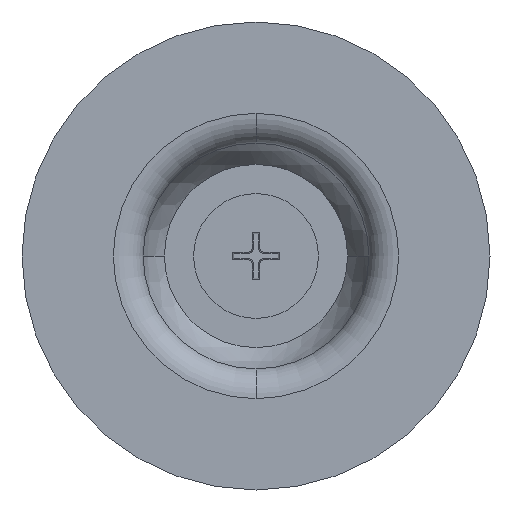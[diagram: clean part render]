
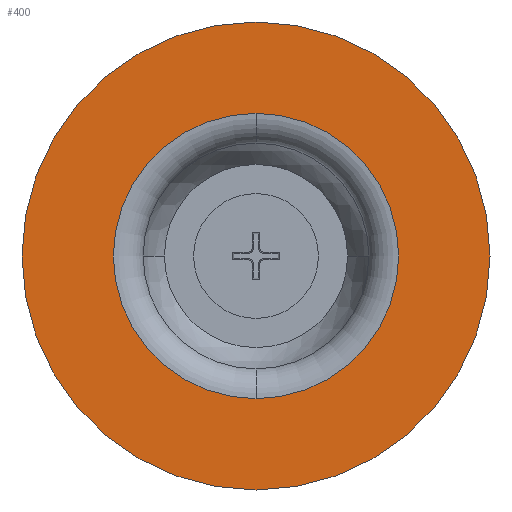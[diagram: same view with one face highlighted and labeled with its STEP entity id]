
A CAD part, front view. The second image highlights one B-rep face of the part: STEP entity #400.
In plain terms, the highlighted planar face has unit normal (0, -1, 0).
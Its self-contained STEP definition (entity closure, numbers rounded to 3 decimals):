
#25 = VERTEX_POINT ( 'NONE', #936 ) ;
#37 = VERTEX_POINT ( 'NONE', #1083 ) ;
#66 = VERTEX_POINT ( 'NONE', #1191 ) ;
#78 = EDGE_LOOP ( 'NONE', ( #661, #660 ) ) ;
#121 = VERTEX_POINT ( 'NONE', #1203 ) ;
#329 = EDGE_LOOP ( 'NONE', ( #659, #658 ) ) ;
#400 = ADVANCED_FACE ( 'NONE', ( #742, #747 ), #983, .T. ) ;
#513 = CIRCLE ( 'NONE', #1623, 30. ) ;
#517 = CIRCLE ( 'NONE', #1627, 18.289 ) ;
#540 = CIRCLE ( 'NONE', #1644, 30. ) ;
#541 = CIRCLE ( 'NONE', #1645, 18.289 ) ;
#658 = ORIENTED_EDGE ( 'NONE', *, *, #1412, .F. ) ;
#659 = ORIENTED_EDGE ( 'NONE', *, *, #1391, .F. ) ;
#660 = ORIENTED_EDGE ( 'NONE', *, *, #1387, .T. ) ;
#661 = ORIENTED_EDGE ( 'NONE', *, *, #1411, .T. ) ;
#742 = FACE_OUTER_BOUND ( 'NONE', #78, .T. ) ;
#747 = FACE_BOUND ( 'NONE', #329, .T. ) ;
#936 = CARTESIAN_POINT ( 'NONE',  ( 0., 0., 30. ) ) ;
#971 = DIRECTION ( 'NONE',  ( 0., 0., -1. ) ) ;
#983 = PLANE ( 'NONE',  #1560 ) ;
#1083 = CARTESIAN_POINT ( 'NONE',  ( 0., 0., -30. ) ) ;
#1174 = DIRECTION ( 'NONE',  ( 0., -1., 0. ) ) ;
#1179 = CARTESIAN_POINT ( 'NONE',  ( 30., 0., 0. ) ) ;
#1191 = CARTESIAN_POINT ( 'NONE',  ( 0., 0., -18.289 ) ) ;
#1203 = CARTESIAN_POINT ( 'NONE',  ( 0., 0., 18.289 ) ) ;
#1311 = DIRECTION ( 'NONE',  ( 0., 0., -1. ) ) ;
#1312 = DIRECTION ( 'NONE',  ( 0., -1., 0. ) ) ;
#1313 = CARTESIAN_POINT ( 'NONE',  ( 0., 0., 0. ) ) ;
#1326 = DIRECTION ( 'NONE',  ( 0., 0., -1. ) ) ;
#1328 = DIRECTION ( 'NONE',  ( 0., -1., 0. ) ) ;
#1330 = CARTESIAN_POINT ( 'NONE',  ( 0., 0., 0. ) ) ;
#1387 = EDGE_CURVE ( 'NONE', #25, #37, #513, .T. ) ;
#1391 = EDGE_CURVE ( 'NONE', #66, #121, #517, .T. ) ;
#1411 = EDGE_CURVE ( 'NONE', #37, #25, #540, .T. ) ;
#1412 = EDGE_CURVE ( 'NONE', #121, #66, #541, .T. ) ;
#1541 = DIRECTION ( 'NONE',  ( 0., 0., -1. ) ) ;
#1542 = DIRECTION ( 'NONE',  ( 0., -1., 0. ) ) ;
#1543 = CARTESIAN_POINT ( 'NONE',  ( 0., 0., 0. ) ) ;
#1547 = DIRECTION ( 'NONE',  ( 0., 0., -1. ) ) ;
#1548 = DIRECTION ( 'NONE',  ( 0., -1., 0. ) ) ;
#1549 = CARTESIAN_POINT ( 'NONE',  ( 0., 0., 0. ) ) ;
#1560 = AXIS2_PLACEMENT_3D ( 'NONE', #1179, #1174, #971 ) ;
#1623 = AXIS2_PLACEMENT_3D ( 'NONE', #1330, #1328, #1326 ) ;
#1627 = AXIS2_PLACEMENT_3D ( 'NONE', #1313, #1312, #1311 ) ;
#1644 = AXIS2_PLACEMENT_3D ( 'NONE', #1549, #1548, #1547 ) ;
#1645 = AXIS2_PLACEMENT_3D ( 'NONE', #1543, #1542, #1541 ) ;
